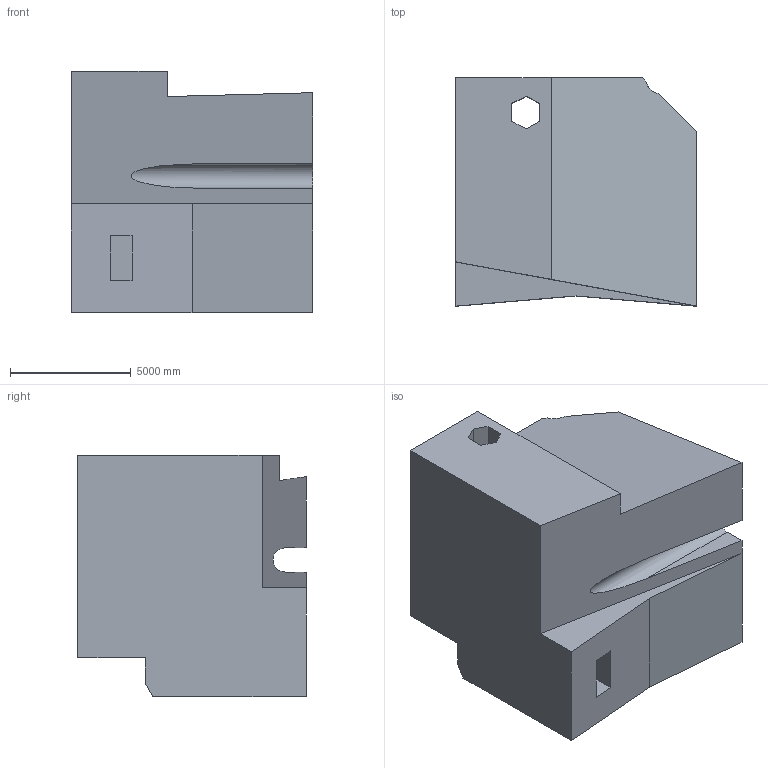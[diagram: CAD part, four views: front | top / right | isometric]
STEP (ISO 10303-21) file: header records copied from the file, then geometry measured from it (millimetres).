
FILE_DESCRIPTION (( 'STEP AP203' ), '1' );
FILE_NAME ('191.STEP', '2022-09-06T13:39:05', ( 'user' ), ( '' ), 'SwSTEP 2.0', 'SolidWorks 2021', '' );
FILE_SCHEMA (( 'CONFIG_CONTROL_DESIGN' ));
Length unit declared in the file: centimetre
Products named in the file (1): 191
Bounding box: 10000 x 9460.47 x 10000 mm (x, y, z)
Volume: 712959736204.7 mm3; surface area: 575953809.8 mm2
Topology: 1 solids, 1 shells, 31 faces, 83 edges, 55 vertices
Faces by surface type: plane 29, cylinder 2
Entity records: 1031 total; most frequent: CARTESIAN_POINT 179, ORIENTED_EDGE 166, DIRECTION 145, EDGE_CURVE 83, VECTOR 79, LINE 79, VERTEX_POINT 55, EDGE_LOOP 34
